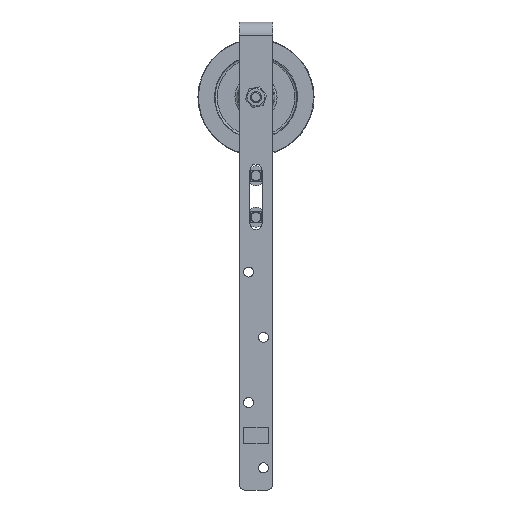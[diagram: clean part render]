
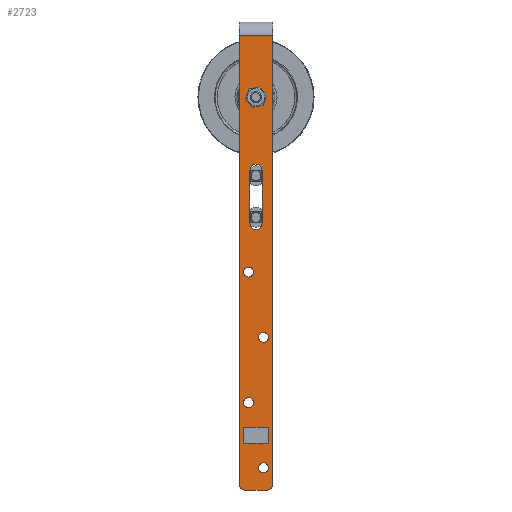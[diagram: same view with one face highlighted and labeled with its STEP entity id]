
A CAD part, left-side view. The second image highlights one B-rep face of the part: STEP entity #2723.
In plain terms, the highlighted planar face has unit normal (-1, 0, 0) as drawn and (0, 0, -1) by its records, which use the part's own axes.
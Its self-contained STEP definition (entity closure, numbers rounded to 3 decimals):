
#230=FACE_BOUND('',#523,.T.);
#231=FACE_BOUND('',#524,.T.);
#232=FACE_BOUND('',#525,.T.);
#233=FACE_BOUND('',#526,.T.);
#234=FACE_BOUND('',#527,.T.);
#235=FACE_BOUND('',#528,.T.);
#236=FACE_BOUND('',#529,.T.);
#264=PLANE('',#3019);
#352=FACE_OUTER_BOUND('',#522,.T.);
#522=EDGE_LOOP('',(#1925,#1926,#1927,#1928,#1929,#1930));
#523=EDGE_LOOP('',(#1931,#1932,#1933,#1934));
#524=EDGE_LOOP('',(#1935));
#525=EDGE_LOOP('',(#1936));
#526=EDGE_LOOP('',(#1937));
#527=EDGE_LOOP('',(#1938));
#528=EDGE_LOOP('',(#1939));
#529=EDGE_LOOP('',(#1940,#1941,#1942,#1943));
#727=LINE('',#4080,#939);
#730=LINE('',#4086,#942);
#731=LINE('',#4088,#943);
#732=LINE('',#4090,#944);
#733=LINE('',#4094,#945);
#734=LINE('',#4096,#946);
#735=LINE('',#4098,#947);
#736=LINE('',#4099,#948);
#737=LINE('',#4114,#949);
#738=LINE('',#4117,#950);
#939=VECTOR('',#3321,10.);
#942=VECTOR('',#3326,10.);
#943=VECTOR('',#3327,10.);
#944=VECTOR('',#3328,10.);
#945=VECTOR('',#3331,10.);
#946=VECTOR('',#3332,10.);
#947=VECTOR('',#3333,10.);
#948=VECTOR('',#3334,10.);
#949=VECTOR('',#3347,10.);
#950=VECTOR('',#3350,10.);
#1144=CIRCLE('',#3017,5.);
#1145=CIRCLE('',#3020,5.);
#1146=CIRCLE('',#3021,4.5);
#1147=CIRCLE('',#3022,4.5);
#1148=CIRCLE('',#3023,4.5);
#1149=CIRCLE('',#3024,4.5);
#1150=CIRCLE('',#3025,5.25);
#1151=CIRCLE('',#3026,5.5);
#1152=CIRCLE('',#3027,5.5);
#1260=VERTEX_POINT('',#4073);
#1261=VERTEX_POINT('',#4075);
#1262=VERTEX_POINT('',#4079);
#1264=VERTEX_POINT('',#4085);
#1265=VERTEX_POINT('',#4087);
#1266=VERTEX_POINT('',#4089);
#1267=VERTEX_POINT('',#4092);
#1268=VERTEX_POINT('',#4093);
#1269=VERTEX_POINT('',#4095);
#1270=VERTEX_POINT('',#4097);
#1271=VERTEX_POINT('',#4100);
#1272=VERTEX_POINT('',#4102);
#1273=VERTEX_POINT('',#4104);
#1274=VERTEX_POINT('',#4106);
#1275=VERTEX_POINT('',#4108);
#1276=VERTEX_POINT('',#4110);
#1277=VERTEX_POINT('',#4111);
#1278=VERTEX_POINT('',#4113);
#1279=VERTEX_POINT('',#4115);
#1516=EDGE_CURVE('',#1260,#1261,#1144,.T.);
#1518=EDGE_CURVE('',#1261,#1262,#727,.T.);
#1521=EDGE_CURVE('',#1264,#1260,#730,.T.);
#1522=EDGE_CURVE('',#1264,#1265,#731,.T.);
#1523=EDGE_CURVE('',#1266,#1265,#732,.T.);
#1524=EDGE_CURVE('',#1262,#1266,#1145,.T.);
#1525=EDGE_CURVE('',#1267,#1268,#733,.T.);
#1526=EDGE_CURVE('',#1268,#1269,#734,.T.);
#1527=EDGE_CURVE('',#1269,#1270,#735,.T.);
#1528=EDGE_CURVE('',#1270,#1267,#736,.T.);
#1529=EDGE_CURVE('',#1271,#1271,#1146,.T.);
#1530=EDGE_CURVE('',#1272,#1272,#1147,.T.);
#1531=EDGE_CURVE('',#1273,#1273,#1148,.T.);
#1532=EDGE_CURVE('',#1274,#1274,#1149,.T.);
#1533=EDGE_CURVE('',#1275,#1275,#1150,.T.);
#1534=EDGE_CURVE('',#1276,#1277,#1151,.T.);
#1535=EDGE_CURVE('',#1277,#1278,#737,.T.);
#1536=EDGE_CURVE('',#1278,#1279,#1152,.T.);
#1537=EDGE_CURVE('',#1279,#1276,#738,.T.);
#1925=ORIENTED_EDGE('',*,*,#1516,.F.);
#1926=ORIENTED_EDGE('',*,*,#1521,.F.);
#1927=ORIENTED_EDGE('',*,*,#1522,.T.);
#1928=ORIENTED_EDGE('',*,*,#1523,.F.);
#1929=ORIENTED_EDGE('',*,*,#1524,.F.);
#1930=ORIENTED_EDGE('',*,*,#1518,.F.);
#1931=ORIENTED_EDGE('',*,*,#1525,.T.);
#1932=ORIENTED_EDGE('',*,*,#1526,.T.);
#1933=ORIENTED_EDGE('',*,*,#1527,.T.);
#1934=ORIENTED_EDGE('',*,*,#1528,.T.);
#1935=ORIENTED_EDGE('',*,*,#1529,.T.);
#1936=ORIENTED_EDGE('',*,*,#1530,.T.);
#1937=ORIENTED_EDGE('',*,*,#1531,.T.);
#1938=ORIENTED_EDGE('',*,*,#1532,.T.);
#1939=ORIENTED_EDGE('',*,*,#1533,.T.);
#1940=ORIENTED_EDGE('',*,*,#1534,.T.);
#1941=ORIENTED_EDGE('',*,*,#1535,.T.);
#1942=ORIENTED_EDGE('',*,*,#1536,.T.);
#1943=ORIENTED_EDGE('',*,*,#1537,.T.);
#2723=ADVANCED_FACE('',(#352,#230,#231,#232,#233,#234,#235,#236),#264,.F.);
#3017=AXIS2_PLACEMENT_3D('',#4076,#3316,#3317);
#3019=AXIS2_PLACEMENT_3D('',#4084,#3324,#3325);
#3020=AXIS2_PLACEMENT_3D('',#4091,#3329,#3330);
#3021=AXIS2_PLACEMENT_3D('',#4101,#3335,#3336);
#3022=AXIS2_PLACEMENT_3D('',#4103,#3337,#3338);
#3023=AXIS2_PLACEMENT_3D('',#4105,#3339,#3340);
#3024=AXIS2_PLACEMENT_3D('',#4107,#3341,#3342);
#3025=AXIS2_PLACEMENT_3D('',#4109,#3343,#3344);
#3026=AXIS2_PLACEMENT_3D('',#4112,#3345,#3346);
#3027=AXIS2_PLACEMENT_3D('',#4116,#3348,#3349);
#3316=DIRECTION('center_axis',(0.,0.,1.));
#3317=DIRECTION('ref_axis',(-0.707,-0.707,0.));
#3321=DIRECTION('',(1.,0.,0.));
#3324=DIRECTION('center_axis',(0.,0.,1.));
#3325=DIRECTION('ref_axis',(1.,0.,0.));
#3326=DIRECTION('',(0.,-1.,0.));
#3327=DIRECTION('',(1.,0.,0.));
#3328=DIRECTION('',(0.,1.,0.));
#3329=DIRECTION('center_axis',(0.,0.,1.));
#3330=DIRECTION('ref_axis',(0.707,-0.707,0.));
#3331=DIRECTION('',(0.,1.,0.));
#3332=DIRECTION('',(-1.,0.,0.));
#3333=DIRECTION('',(0.,-1.,0.));
#3334=DIRECTION('',(1.,0.,0.));
#3335=DIRECTION('center_axis',(0.,0.,1.));
#3336=DIRECTION('ref_axis',(-1.,0.,0.));
#3337=DIRECTION('center_axis',(0.,0.,1.));
#3338=DIRECTION('ref_axis',(-1.,0.,0.));
#3339=DIRECTION('center_axis',(0.,0.,1.));
#3340=DIRECTION('ref_axis',(-1.,0.,0.));
#3341=DIRECTION('center_axis',(0.,0.,1.));
#3342=DIRECTION('ref_axis',(-1.,0.,0.));
#3343=DIRECTION('center_axis',(0.,0.,1.));
#3344=DIRECTION('ref_axis',(-1.,0.,0.));
#3345=DIRECTION('center_axis',(0.,0.,1.));
#3346=DIRECTION('ref_axis',(1.,0.,0.));
#3347=DIRECTION('',(0.,-1.,0.));
#3348=DIRECTION('center_axis',(0.,0.,1.));
#3349=DIRECTION('ref_axis',(-1.,0.,0.));
#3350=DIRECTION('',(0.,1.,0.));
#4073=CARTESIAN_POINT('',(-15.,-350.,0.));
#4075=CARTESIAN_POINT('',(-10.,-355.,0.));
#4076=CARTESIAN_POINT('Origin',(-10.,-350.,0.));
#4079=CARTESIAN_POINT('',(10.,-355.,0.));
#4080=CARTESIAN_POINT('',(-15.,-355.,0.));
#4084=CARTESIAN_POINT('Origin',(0.,-143.5,0.));
#4085=CARTESIAN_POINT('',(-15.,56.,0.));
#4086=CARTESIAN_POINT('',(-15.,68.,0.));
#4087=CARTESIAN_POINT('',(15.,56.,0.));
#4088=CARTESIAN_POINT('',(-7.5,56.,0.));
#4089=CARTESIAN_POINT('',(15.,-350.,0.));
#4090=CARTESIAN_POINT('',(15.,-355.,0.));
#4091=CARTESIAN_POINT('Origin',(10.,-350.,0.));
#4092=CARTESIAN_POINT('',(11.25,-312.75,0.));
#4093=CARTESIAN_POINT('',(11.25,-298.25,0.));
#4094=CARTESIAN_POINT('',(11.25,-228.125,0.));
#4095=CARTESIAN_POINT('',(-11.25,-298.25,0.));
#4096=CARTESIAN_POINT('',(5.625,-298.25,0.));
#4097=CARTESIAN_POINT('',(-11.25,-312.75,0.));
#4098=CARTESIAN_POINT('',(-11.25,-220.875,0.));
#4099=CARTESIAN_POINT('',(-5.625,-312.75,0.));
#4100=CARTESIAN_POINT('',(11.25,-158.,0.));
#4101=CARTESIAN_POINT('Origin',(6.75,-158.,0.));
#4102=CARTESIAN_POINT('',(-2.25,-335.,0.));
#4103=CARTESIAN_POINT('Origin',(-6.75,-335.,0.));
#4104=CARTESIAN_POINT('',(11.25,-276.,0.));
#4105=CARTESIAN_POINT('Origin',(6.75,-276.,0.));
#4106=CARTESIAN_POINT('',(-2.25,-217.,0.));
#4107=CARTESIAN_POINT('Origin',(-6.75,-217.,0.));
#4108=CARTESIAN_POINT('',(5.25,0.,0.));
#4109=CARTESIAN_POINT('Origin',(0.,0.,0.));
#4110=CARTESIAN_POINT('',(5.5,-66.,0.));
#4111=CARTESIAN_POINT('',(-5.5,-66.,0.));
#4112=CARTESIAN_POINT('Origin',(0.,-66.,0.));
#4113=CARTESIAN_POINT('',(-5.5,-114.,0.));
#4114=CARTESIAN_POINT('',(-5.5,-104.75,0.));
#4115=CARTESIAN_POINT('',(5.5,-114.,0.));
#4116=CARTESIAN_POINT('Origin',(0.,-114.,0.));
#4117=CARTESIAN_POINT('',(5.5,-128.75,0.));
